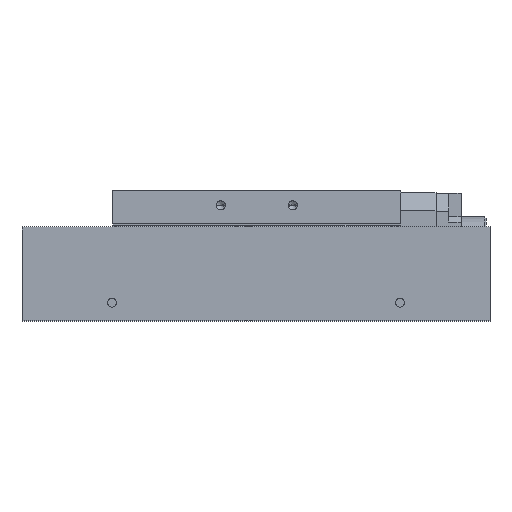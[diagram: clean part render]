
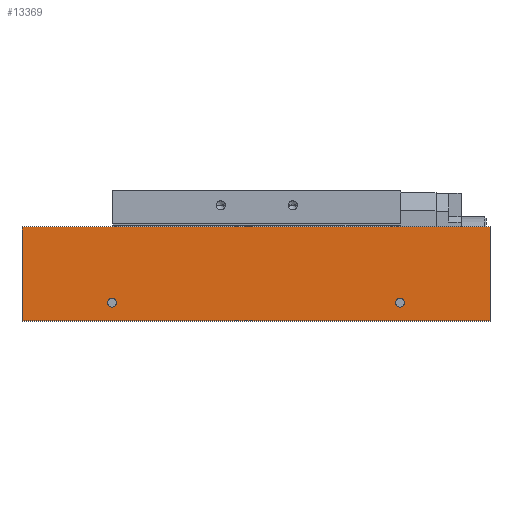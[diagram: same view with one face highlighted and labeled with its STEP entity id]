
A CAD part, top view. The second image highlights one B-rep face of the part: STEP entity #13369.
In plain terms, the highlighted planar face has unit normal (0, 0, 1).
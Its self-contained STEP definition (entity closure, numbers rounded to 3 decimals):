
#157 = VERTEX_POINT ( 'NONE', #8528 ) ;
#183 = DIRECTION ( 'NONE',  ( 0., -1., 0. ) ) ;
#230 = VERTEX_POINT ( 'NONE', #2399 ) ;
#725 = DIRECTION ( 'NONE',  ( 1., 0., 0. ) ) ;
#817 = LINE ( 'NONE', #10689, #13453 ) ;
#884 = DIRECTION ( 'NONE',  ( 1., 0., 0. ) ) ;
#1029 = VERTEX_POINT ( 'NONE', #5396 ) ;
#1046 = EDGE_LOOP ( 'NONE', ( #10655, #8394, #12888, #4543 ) ) ;
#1047 = CARTESIAN_POINT ( 'NONE',  ( -65., 26., 34.5 ) ) ;
#1164 = AXIS2_PLACEMENT_3D ( 'NONE', #6759, #2423, #10229 ) ;
#1901 = CIRCLE ( 'NONE', #4877, 1.25 ) ;
#2243 = VERTEX_POINT ( 'NONE', #3869 ) ;
#2399 = CARTESIAN_POINT ( 'NONE',  ( -65., 0., 34.5 ) ) ;
#2408 = CARTESIAN_POINT ( 'NONE',  ( 65., 26., 34.5 ) ) ;
#2423 = DIRECTION ( 'NONE',  ( 0., 0., 1. ) ) ;
#2560 = CIRCLE ( 'NONE', #12191, 1.25 ) ;
#2874 = VERTEX_POINT ( 'NONE', #5916 ) ;
#2963 = DIRECTION ( 'NONE',  ( 0., 0., -1. ) ) ;
#3036 = CARTESIAN_POINT ( 'NONE',  ( -65., 26., 34.5 ) ) ;
#3102 = DIRECTION ( 'NONE',  ( -1., 0., 0. ) ) ;
#3298 = LINE ( 'NONE', #7679, #3701 ) ;
#3348 = DIRECTION ( 'NONE',  ( 0., -1., 0. ) ) ;
#3411 = EDGE_CURVE ( 'NONE', #6212, #157, #817, .T. ) ;
#3552 = CARTESIAN_POINT ( 'NONE',  ( -41.25, 5., 34.5 ) ) ;
#3701 = VECTOR ( 'NONE', #12045, 1000. ) ;
#3869 = CARTESIAN_POINT ( 'NONE',  ( -38.75, 5., 34.5 ) ) ;
#4129 = PLANE ( 'NONE',  #7393 ) ;
#4543 = ORIENTED_EDGE ( 'NONE', *, *, #5806, .T. ) ;
#4877 = AXIS2_PLACEMENT_3D ( 'NONE', #8691, #11978, #5388 ) ;
#5388 = DIRECTION ( 'NONE',  ( 1., 0., 0. ) ) ;
#5396 = CARTESIAN_POINT ( 'NONE',  ( 65., 0., 34.5 ) ) ;
#5594 = CARTESIAN_POINT ( 'NONE',  ( -65., 26., 34.5 ) ) ;
#5728 = CARTESIAN_POINT ( 'NONE',  ( 40., 5., 34.5 ) ) ;
#5806 = EDGE_CURVE ( 'NONE', #6212, #230, #10786, .T. ) ;
#5916 = CARTESIAN_POINT ( 'NONE',  ( 38.75, 5., 34.5 ) ) ;
#6197 = EDGE_CURVE ( 'NONE', #230, #1029, #3298, .T. ) ;
#6212 = VERTEX_POINT ( 'NONE', #5594 ) ;
#6359 = EDGE_CURVE ( 'NONE', #2243, #6576, #2560, .T. ) ;
#6457 = DIRECTION ( 'NONE',  ( 0., 0., 1. ) ) ;
#6459 = EDGE_CURVE ( 'NONE', #157, #1029, #11155, .T. ) ;
#6468 = VECTOR ( 'NONE', #183, 1000. ) ;
#6576 = VERTEX_POINT ( 'NONE', #3552 ) ;
#6753 = DIRECTION ( 'NONE',  ( 1., 0., 0. ) ) ;
#6759 = CARTESIAN_POINT ( 'NONE',  ( 40., 5., 34.5 ) ) ;
#7181 = VECTOR ( 'NONE', #3348, 1000. ) ;
#7278 = ORIENTED_EDGE ( 'NONE', *, *, #13803, .F. ) ;
#7393 = AXIS2_PLACEMENT_3D ( 'NONE', #3036, #2963, #3102 ) ;
#7514 = EDGE_CURVE ( 'NONE', #2874, #11310, #11959, .T. ) ;
#7579 = CIRCLE ( 'NONE', #1164, 1.25 ) ;
#7679 = CARTESIAN_POINT ( 'NONE',  ( -65., 0., 34.5 ) ) ;
#8394 = ORIENTED_EDGE ( 'NONE', *, *, #6459, .F. ) ;
#8507 = FACE_OUTER_BOUND ( 'NONE', #1046, .T. ) ;
#8528 = CARTESIAN_POINT ( 'NONE',  ( 65., 26., 34.5 ) ) ;
#8691 = CARTESIAN_POINT ( 'NONE',  ( -40., 5., 34.5 ) ) ;
#8956 = DIRECTION ( 'NONE',  ( 0., 0., 1. ) ) ;
#8992 = AXIS2_PLACEMENT_3D ( 'NONE', #5728, #8956, #6753 ) ;
#9461 = CARTESIAN_POINT ( 'NONE',  ( -40., 5., 34.5 ) ) ;
#9937 = ORIENTED_EDGE ( 'NONE', *, *, #12723, .F. ) ;
#10054 = EDGE_LOOP ( 'NONE', ( #11552, #7278 ) ) ;
#10229 = DIRECTION ( 'NONE',  ( 1., 0., 0. ) ) ;
#10655 = ORIENTED_EDGE ( 'NONE', *, *, #6197, .T. ) ;
#10689 = CARTESIAN_POINT ( 'NONE',  ( -65., 26., 34.5 ) ) ;
#10786 = LINE ( 'NONE', #1047, #6468 ) ;
#11155 = LINE ( 'NONE', #2408, #7181 ) ;
#11310 = VERTEX_POINT ( 'NONE', #12461 ) ;
#11387 = ORIENTED_EDGE ( 'NONE', *, *, #7514, .F. ) ;
#11552 = ORIENTED_EDGE ( 'NONE', *, *, #6359, .F. ) ;
#11959 = CIRCLE ( 'NONE', #8992, 1.25 ) ;
#11978 = DIRECTION ( 'NONE',  ( 0., 0., 1. ) ) ;
#12045 = DIRECTION ( 'NONE',  ( 1., 0., 0. ) ) ;
#12191 = AXIS2_PLACEMENT_3D ( 'NONE', #9461, #6457, #725 ) ;
#12461 = CARTESIAN_POINT ( 'NONE',  ( 41.25, 5., 34.5 ) ) ;
#12723 = EDGE_CURVE ( 'NONE', #11310, #2874, #7579, .T. ) ;
#12775 = FACE_BOUND ( 'NONE', #10054, .T. ) ;
#12888 = ORIENTED_EDGE ( 'NONE', *, *, #3411, .F. ) ;
#13369 = ADVANCED_FACE ( 'NONE', ( #12775, #13926, #8507 ), #4129, .F. ) ;
#13453 = VECTOR ( 'NONE', #884, 1000. ) ;
#13551 = EDGE_LOOP ( 'NONE', ( #9937, #11387 ) ) ;
#13803 = EDGE_CURVE ( 'NONE', #6576, #2243, #1901, .T. ) ;
#13926 = FACE_BOUND ( 'NONE', #13551, .T. ) ;
